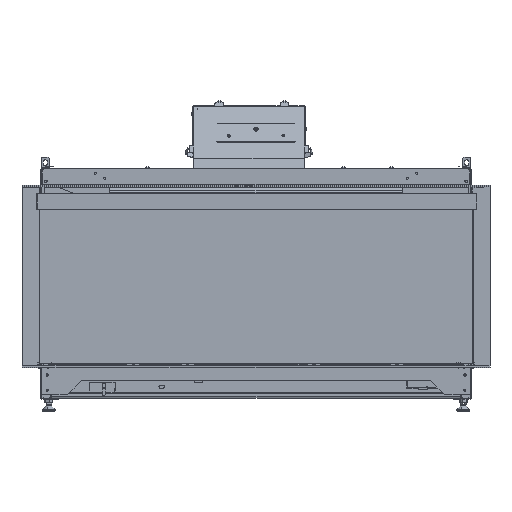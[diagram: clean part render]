
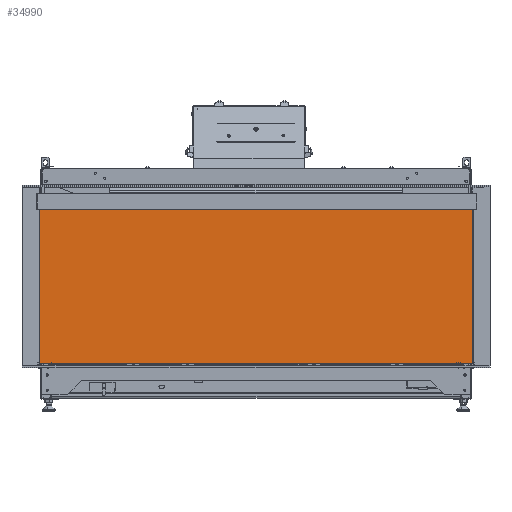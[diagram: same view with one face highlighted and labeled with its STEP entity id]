
A CAD part, top view. The second image highlights one B-rep face of the part: STEP entity #34990.
In plain terms, the highlighted planar face has unit normal (0, 0, 1).
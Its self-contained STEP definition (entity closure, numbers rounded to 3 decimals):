
#632 = VERTEX_POINT ( 'NONE', #55638 ) ;
#1918 = CARTESIAN_POINT ( 'NONE',  ( 1171.198, 1761.418, 3689.964 ) ) ;
#2308 = AXIS2_PLACEMENT_3D ( 'NONE', #22369, #2942, #31797 ) ;
#2942 = DIRECTION ( 'NONE',  ( 0., 0., 1. ) ) ;
#3528 = ORIENTED_EDGE ( 'NONE', *, *, #22886, .T. ) ;
#7096 = LINE ( 'NONE', #1918, #19288 ) ;
#12019 = FACE_OUTER_BOUND ( 'NONE', #37543, .T. ) ;
#13717 = CARTESIAN_POINT ( 'NONE',  ( 1171.198, 2269.418, 3689.964 ) ) ;
#14445 = VERTEX_POINT ( 'NONE', #26832 ) ;
#15039 = CARTESIAN_POINT ( 'NONE',  ( 1171.198, 2639.418, 3689.964 ) ) ;
#17360 = ORIENTED_EDGE ( 'NONE', *, *, #59342, .T. ) ;
#19288 = VECTOR ( 'NONE', #20453, 1000. ) ;
#20453 = DIRECTION ( 'NONE',  ( 0., -1., 0. ) ) ;
#21220 = DIRECTION ( 'NONE',  ( 0., -1., 0. ) ) ;
#21522 = CARTESIAN_POINT ( 'NONE',  ( 1680.198, 2269.418, 3689.964 ) ) ;
#22291 = VECTOR ( 'NONE', #57426, 1000. ) ;
#22369 = CARTESIAN_POINT ( 'NONE',  ( 1680.198, 1761.418, 3689.964 ) ) ;
#22886 = EDGE_CURVE ( 'NONE', #52020, #14445, #30646, .T. ) ;
#26832 = CARTESIAN_POINT ( 'NONE',  ( 2189.198, 2269.418, 3689.964 ) ) ;
#27581 = VECTOR ( 'NONE', #55319, 1000. ) ;
#28304 = VECTOR ( 'NONE', #21220, 1000. ) ;
#29870 = EDGE_CURVE ( 'NONE', #632, #14445, #31555, .T. ) ;
#30646 = LINE ( 'NONE', #21522, #22291 ) ;
#30965 = CARTESIAN_POINT ( 'NONE',  ( 2189.198, 1761.418, 3689.964 ) ) ;
#31029 = LINE ( 'NONE', #45587, #27581 ) ;
#31555 = LINE ( 'NONE', #30965, #28304 ) ;
#31797 = DIRECTION ( 'NONE',  ( 1., 0., 0. ) ) ;
#34990 = ADVANCED_FACE ( 'NONE', ( #12019 ), #36339, .T. ) ;
#36339 = PLANE ( 'NONE',  #2308 ) ;
#37543 = EDGE_LOOP ( 'NONE', ( #17360, #3528, #52006, #42456 ) ) ;
#42456 = ORIENTED_EDGE ( 'NONE', *, *, #55150, .T. ) ;
#45587 = CARTESIAN_POINT ( 'NONE',  ( 1680.198, 2639.418, 3689.964 ) ) ;
#52006 = ORIENTED_EDGE ( 'NONE', *, *, #29870, .F. ) ;
#52020 = VERTEX_POINT ( 'NONE', #13717 ) ;
#55150 = EDGE_CURVE ( 'NONE', #632, #58806, #31029, .T. ) ;
#55319 = DIRECTION ( 'NONE',  ( -1., 0., 0. ) ) ;
#55638 = CARTESIAN_POINT ( 'NONE',  ( 2189.198, 2639.418, 3689.964 ) ) ;
#57426 = DIRECTION ( 'NONE',  ( 1., 0., 0. ) ) ;
#58806 = VERTEX_POINT ( 'NONE', #15039 ) ;
#59342 = EDGE_CURVE ( 'NONE', #58806, #52020, #7096, .T. ) ;
